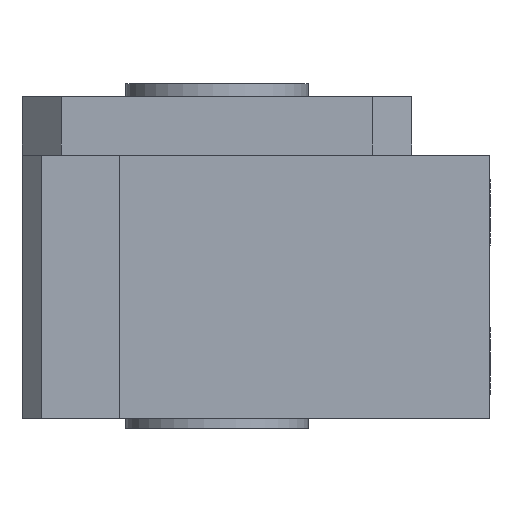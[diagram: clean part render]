
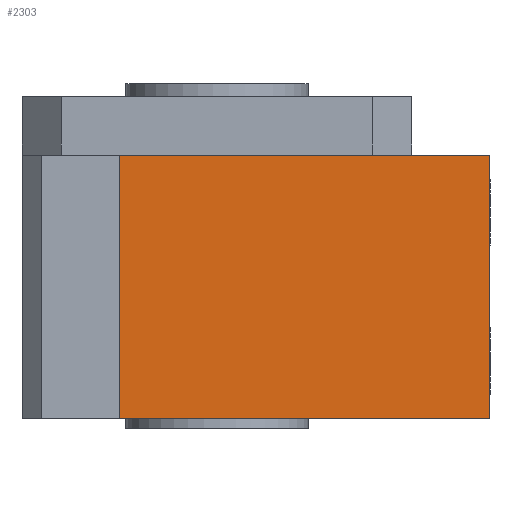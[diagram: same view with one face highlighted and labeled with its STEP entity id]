
A CAD part, left-side view. The second image highlights one B-rep face of the part: STEP entity #2303.
In plain terms, the highlighted planar face has unit normal (-1, 0, 0) as drawn and (1, 0, 0) by its records, which use the part's own axes.
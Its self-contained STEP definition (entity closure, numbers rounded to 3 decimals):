
#321=LINE('',#3669,#395);
#335=LINE('',#3935,#409);
#339=LINE('',#4149,#413);
#347=LINE('',#4564,#421);
#395=VECTOR('',#2900,10.);
#409=VECTOR('',#3002,10.);
#413=VECTOR('',#3056,10.);
#421=VECTOR('',#3154,10.);
#481=PLANE('',#2657);
#736=FACE_OUTER_BOUND('',#977,.T.);
#977=EDGE_LOOP('',(#1924,#1925,#1926,#1927));
#1288=VERTEX_POINT('',#3666);
#1289=VERTEX_POINT('',#3668);
#1328=VERTEX_POINT('',#3932);
#1329=VERTEX_POINT('',#3934);
#1504=EDGE_CURVE('',#1289,#1288,#321,.T.);
#1544=EDGE_CURVE('',#1328,#1329,#335,.T.);
#1564=EDGE_CURVE('',#1288,#1329,#339,.T.);
#1598=EDGE_CURVE('',#1289,#1328,#347,.T.);
#1924=ORIENTED_EDGE('',*,*,#1504,.T.);
#1925=ORIENTED_EDGE('',*,*,#1564,.T.);
#1926=ORIENTED_EDGE('',*,*,#1544,.F.);
#1927=ORIENTED_EDGE('',*,*,#1598,.F.);
#2303=ADVANCED_FACE('',(#736),#481,.T.);
#2657=AXIS2_PLACEMENT_3D('',#4563,#3152,#3153);
#2900=DIRECTION('',(0.,1.,0.));
#3002=DIRECTION('',(0.,1.,0.));
#3056=DIRECTION('',(0.,0.,1.));
#3152=DIRECTION('center_axis',(1.,0.,0.));
#3153=DIRECTION('ref_axis',(0.,1.,0.));
#3154=DIRECTION('',(0.,0.,1.));
#3666=CARTESIAN_POINT('',(35.,38.,0.));
#3668=CARTESIAN_POINT('',(35.,0.,0.));
#3669=CARTESIAN_POINT('',(35.,0.,0.));
#3932=CARTESIAN_POINT('',(35.,0.,27.));
#3934=CARTESIAN_POINT('',(35.,38.,27.));
#3935=CARTESIAN_POINT('',(35.,0.,27.));
#4149=CARTESIAN_POINT('',(35.,38.,0.));
#4563=CARTESIAN_POINT('Origin',(35.,0.,0.));
#4564=CARTESIAN_POINT('',(35.,0.,0.));
